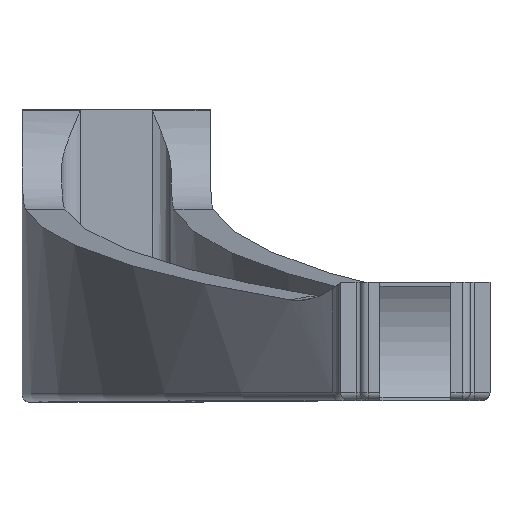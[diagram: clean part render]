
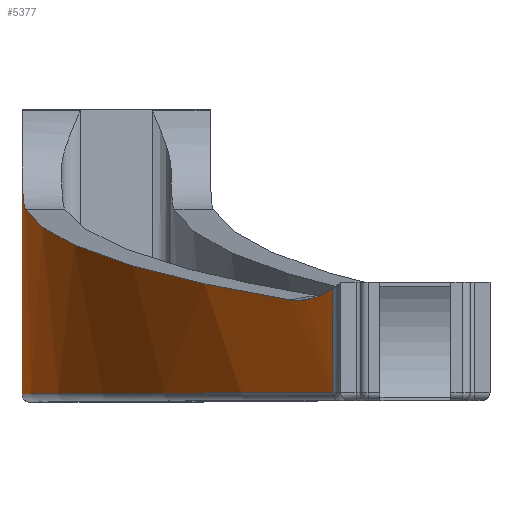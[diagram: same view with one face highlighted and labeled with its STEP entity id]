
A CAD part, top view. The second image highlights one B-rep face of the part: STEP entity #5377.
In plain terms, the highlighted cylindrical face has radius 132.732 mm (diameter 265.464 mm), a partial arc.
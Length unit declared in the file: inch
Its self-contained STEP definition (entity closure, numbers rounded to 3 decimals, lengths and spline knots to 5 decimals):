
#1 = CARTESIAN_POINT ( 'NONE',  ( -0.35978, 0.79142, 1.6965 ) ) ;
#3 = ORIENTED_EDGE ( 'NONE', *, *, #754, .T. ) ;
#13 = B_SPLINE_CURVE_WITH_KNOTS ( 'NONE', 3,
 ( #3776, #2023, #5015, #816, #5421, #363, #2508, #775, #5029, #565, #4353, #3100, #3549, #961, #4395, #3484, #551, #1009, #4831, #4793, #3062, #1836, #3985, #1785 ),
 .UNSPECIFIED., .F., .F.,
 ( 4, 2, 2, 2, 2, 2, 2, 2, 2, 2, 2, 4 ),
 ( 0., 0.00225, 0.00337, 0.0045, 0.00674, 0.00787, 0.00899, 0.01124, 0.01236, 0.01349, 0.01573, 0.01798 ),
 .UNSPECIFIED. ) ;
#173 = DIRECTION ( 'NONE',  ( 0., 0., -1. ) ) ;
#272 = DIRECTION ( 'NONE',  ( 0., -1., 0. ) ) ;
#284 = CARTESIAN_POINT ( 'NONE',  ( -0.45406, 0.96363, 0.54421 ) ) ;
#363 = CARTESIAN_POINT ( 'NONE',  ( -0.46368, 1.00637, 0.40334 ) ) ;
#470 = ORIENTED_EDGE ( 'NONE', *, *, #907, .T. ) ;
#551 = CARTESIAN_POINT ( 'NONE',  ( -0.47117, 1.22926, 0.17332 ) ) ;
#565 = CARTESIAN_POINT ( 'NONE',  ( -0.46858, 1.07892, 0.29191 ) ) ;
#651 = CARTESIAN_POINT ( 'NONE',  ( 1.08534, 0.56, 3.83926 ) ) ;
#754 = EDGE_CURVE ( 'NONE', #809, #3929, #1871, .T. ) ;
#771 = VERTEX_POINT ( 'NONE', #2483 ) ;
#775 = CARTESIAN_POINT ( 'NONE',  ( -0.46634, 1.03456, 0.35078 ) ) ;
#809 = VERTEX_POINT ( 'NONE', #651 ) ;
#816 = CARTESIAN_POINT ( 'NONE',  ( -0.46129, 0.98913, 0.44419 ) ) ;
#907 = EDGE_CURVE ( 'NONE', #5084, #4357, #13, .T. ) ;
#961 = CARTESIAN_POINT ( 'NONE',  ( -0.4705, 1.15409, 0.22007 ) ) ;
#999 = CARTESIAN_POINT ( 'NONE',  ( 1.08534, 0.47244, 3.83926 ) ) ;
#1009 = CARTESIAN_POINT ( 'NONE',  ( -0.47129, 1.25613, 0.16049 ) ) ;
#1029 = EDGE_CURVE ( 'NONE', #3929, #5084, #3280, .T. ) ;
#1138 = CARTESIAN_POINT ( 'NONE',  ( -0.47146, 0.47244, 0.11811 ) ) ;
#1139 = CIRCLE ( 'NONE', #2282, 5.22566 ) ;
#1219 = ORIENTED_EDGE ( 'NONE', *, *, #1029, .T. ) ;
#1543 = CARTESIAN_POINT ( 'NONE',  ( 0.87256, 0.50444, 3.61673 ) ) ;
#1555 = VECTOR ( 'NONE', #272, 39.37008 ) ;
#1675 = CARTESIAN_POINT ( 'NONE',  ( 1.01587, 0.52154, 3.76955 ) ) ;
#1785 = CARTESIAN_POINT ( 'NONE',  ( -0.47146, 1.45814, 0.11811 ) ) ;
#1836 = CARTESIAN_POINT ( 'NONE',  ( -0.47146, 1.39832, 0.12082 ) ) ;
#1871 = B_SPLINE_CURVE_WITH_KNOTS ( 'NONE', 3,
 ( #5016, #4232, #4632, #1675, #4668, #2970, #2888, #3387 ),
 .UNSPECIFIED., .F., .F.,
 ( 4, 2, 2, 4 ),
 ( 0.0016, 0.00361, 0.00562, 0.00965 ),
 .UNSPECIFIED. ) ;
#1949 = DIRECTION ( 'NONE',  ( 0., 0., -1. ) ) ;
#2023 = CARTESIAN_POINT ( 'NONE',  ( -0.45647, 0.96804, 0.51471 ) ) ;
#2153 = CARTESIAN_POINT ( 'NONE',  ( -0.47146, 1.45814, 0.11811 ) ) ;
#2282 = AXIS2_PLACEMENT_3D ( 'NONE', #5242, #2694, #173 ) ;
#2384 = CARTESIAN_POINT ( 'NONE',  ( 1.08534, 0.03937, 3.83926 ) ) ;
#2483 = CARTESIAN_POINT ( 'NONE',  ( -0.47146, 0.03937, 0.11811 ) ) ;
#2508 = CARTESIAN_POINT ( 'NONE',  ( -0.4644, 1.01299, 0.38993 ) ) ;
#2518 = CARTESIAN_POINT ( 'NONE',  ( 0.09851, 0.63279, 2.75794 ) ) ;
#2567 = LINE ( 'NONE', #999, #5298 ) ;
#2694 = DIRECTION ( 'NONE',  ( 0., 1., 0. ) ) ;
#2757 = ORIENTED_EDGE ( 'NONE', *, *, #5285, .T. ) ;
#2776 = DIRECTION ( 'NONE',  ( 0., -1., 0. ) ) ;
#2888 = CARTESIAN_POINT ( 'NONE',  ( 0.90812, 0.49854, 3.65619 ) ) ;
#2921 = ORIENTED_EDGE ( 'NONE', *, *, #3010, .T. ) ;
#2961 = CARTESIAN_POINT ( 'NONE',  ( -0.45406, 0.96363, 0.54421 ) ) ;
#2970 = CARTESIAN_POINT ( 'NONE',  ( 0.94386, 0.5006, 3.69464 ) ) ;
#3010 = EDGE_CURVE ( 'NONE', #4357, #771, #4768, .T. ) ;
#3062 = CARTESIAN_POINT ( 'NONE',  ( -0.47144, 1.34014, 0.13134 ) ) ;
#3100 = CARTESIAN_POINT ( 'NONE',  ( -0.46955, 1.10938, 0.25952 ) ) ;
#3280 =( BOUNDED_CURVE ( )  B_SPLINE_CURVE ( 3, ( #1543, #2518, #1, #2961 ),
 .UNSPECIFIED., .F., .F. ) 
 B_SPLINE_CURVE_WITH_KNOTS ( ( 4, 4 ),
 ( 0.83725, 1.48917 ),
 .UNSPECIFIED. ) 
 CURVE ( )  GEOMETRIC_REPRESENTATION_ITEM ( )  RATIONAL_B_SPLINE_CURVE ( ( 1., 0.965, 0.965, 1. ) ) 
 REPRESENTATION_ITEM ( '' )  );
#3387 = CARTESIAN_POINT ( 'NONE',  ( 0.87256, 0.50444, 3.61673 ) ) ;
#3484 = CARTESIAN_POINT ( 'NONE',  ( -0.47109, 1.2162, 0.1803 ) ) ;
#3549 = CARTESIAN_POINT ( 'NONE',  ( -0.46982, 1.1203, 0.24921 ) ) ;
#3571 = ORIENTED_EDGE ( 'NONE', *, *, #4498, .T. ) ;
#3776 = CARTESIAN_POINT ( 'NONE',  ( -0.45406, 0.96363, 0.54421 ) ) ;
#3929 = VERTEX_POINT ( 'NONE', #4332 ) ;
#3947 = DIRECTION ( 'NONE',  ( 0., 1., 0. ) ) ;
#3985 = CARTESIAN_POINT ( 'NONE',  ( -0.47146, 1.42822, 0.11811 ) ) ;
#4232 = CARTESIAN_POINT ( 'NONE',  ( 1.06844, 0.54839, 3.8226 ) ) ;
#4332 = CARTESIAN_POINT ( 'NONE',  ( 0.87256, 0.50444, 3.61673 ) ) ;
#4353 = CARTESIAN_POINT ( 'NONE',  ( -0.46893, 1.08872, 0.28084 ) ) ;
#4357 = VERTEX_POINT ( 'NONE', #2153 ) ;
#4395 = CARTESIAN_POINT ( 'NONE',  ( -0.47079, 1.17808, 0.20286 ) ) ;
#4440 = CARTESIAN_POINT ( 'NONE',  ( 4.75421, 0.47244, 0.11811 ) ) ;
#4455 = FACE_OUTER_BOUND ( 'NONE', #5321, .T. ) ;
#4498 = EDGE_CURVE ( 'NONE', #771, #4770, #1139, .T. ) ;
#4525 = CYLINDRICAL_SURFACE ( 'NONE', #5406, 5.22566 ) ;
#4632 = CARTESIAN_POINT ( 'NONE',  ( 1.05117, 0.53832, 3.80535 ) ) ;
#4668 = CARTESIAN_POINT ( 'NONE',  ( 0.99774, 0.51484, 3.75091 ) ) ;
#4768 = LINE ( 'NONE', #1138, #1555 ) ;
#4770 = VERTEX_POINT ( 'NONE', #2384 ) ;
#4793 = CARTESIAN_POINT ( 'NONE',  ( -0.47142, 1.31168, 0.13912 ) ) ;
#4831 = CARTESIAN_POINT ( 'NONE',  ( -0.47133, 1.26995, 0.15464 ) ) ;
#5015 = CARTESIAN_POINT ( 'NONE',  ( -0.45856, 0.975, 0.48603 ) ) ;
#5016 = CARTESIAN_POINT ( 'NONE',  ( 1.08534, 0.56, 3.83926 ) ) ;
#5029 = CARTESIAN_POINT ( 'NONE',  ( -0.46736, 1.05107, 0.32629 ) ) ;
#5084 = VERTEX_POINT ( 'NONE', #284 ) ;
#5242 = CARTESIAN_POINT ( 'NONE',  ( 4.75421, 0.03937, 0.11811 ) ) ;
#5285 = EDGE_CURVE ( 'NONE', #4770, #809, #2567, .T. ) ;
#5298 = VECTOR ( 'NONE', #3947, 39.37008 ) ;
#5321 = EDGE_LOOP ( 'NONE', ( #2921, #3571, #2757, #3, #1219, #470 ) ) ;
#5377 = ADVANCED_FACE ( 'NONE', ( #4455 ), #4525, .T. ) ;
#5406 = AXIS2_PLACEMENT_3D ( 'NONE', #4440, #2776, #1949 ) ;
#5421 = CARTESIAN_POINT ( 'NONE',  ( -0.46213, 0.99446, 0.43044 ) ) ;
